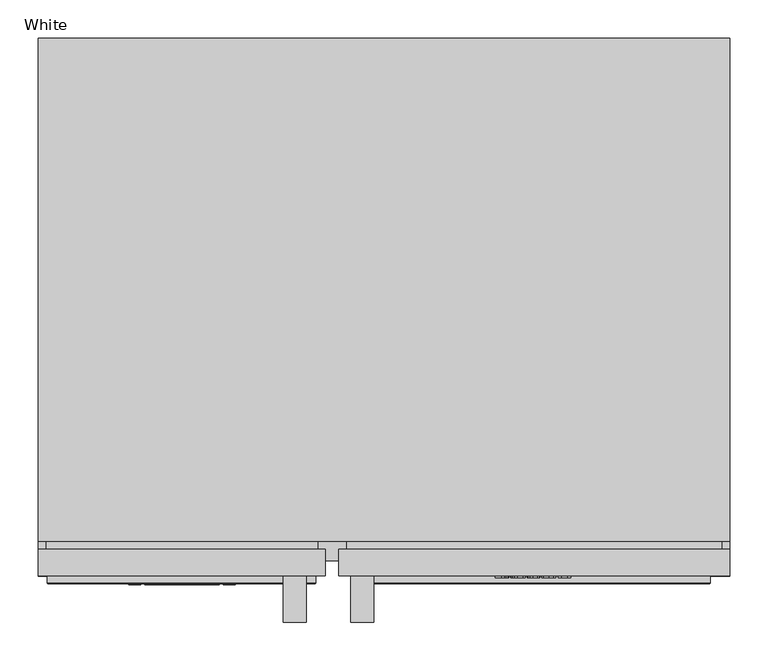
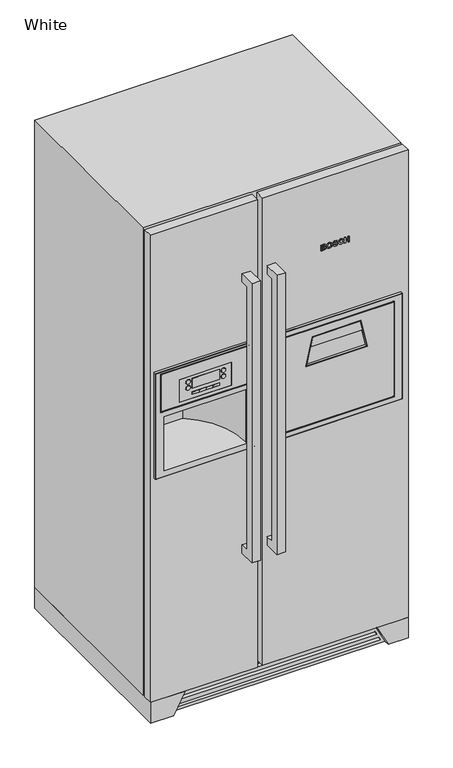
"""IFC4 building model written with IfcOpenShell, lengths in millimetres: proxy geometry, Blocks_Side by Side Refrigerator_F02335EN : White."""

from ifc_helpers import new_model, si_unit, point, frame, frame_2d, origin, place, context, project, spatial, polyline, circle_curve, ellipse_curve, trimmed, segment, composite_curve, outline, extrude, faceted_brep, source, transform, mapped, element, save
from ifc_brep_helpers import plane_surface, cylinder_surface, revolved_surface, advanced_brep


def white_40978c59(model_context):
    return source(origin(), model_context, "Body", "SolidModel", [
        extrude(outline(polyline([(1555.5500322, 145.0144884), (1535.1448442, 145.0144884), (1535.1448442, 151.9882853), (1535.2814861, 156.9782445), (1536.2455705, 159.754099), (1538.3356853, 161.5304435), (1541.0305669, 162.1807577), (1544.0923572, 161.2748726), (1545.9344923, 158.6837376), (1547.7412016, 160.7662611), (1550.3829447, 161.5329739), (1552.7842993, 160.890251), (1554.4999141, 159.2834436), (1555.3475998, 157.0971735), (1555.5500322, 153.3901298), (1555.5500322, 145.0144884)]), holes=[polyline([(1551.9872216, 148.9011909), (1551.9872216, 151.5024475), (1551.9214311, 155.3689067), (1549.7554042, 157.6462714), (1548.2219786, 156.9807749), (1547.5185259, 155.1563527), (1547.4527354, 151.8668258), (1547.4527354, 148.9011909), (1551.9872216, 148.9011909)]), polyline([(1543.8899248, 148.9011909), (1543.8899248, 152.4893055), (1543.6115802, 156.4266161), (1541.2481817, 158.2940552), (1539.6008879, 157.6715755), (1538.8291143, 156.0571769), (1538.7076548, 153.010569), (1538.7076548, 148.9011909), (1543.8899248, 148.9011909)])]), frame((0.0, -702.0, 0.0), z_axis=(0.0, 1.0, 0.0), x_axis=(0.0, 0.0, 1.0)), (0.0, 0.0, 1.0), 2.0),
        extrude(outline(polyline([(1545.220918, 164.7718926), (1537.5917461, 167.4085749), (1534.8209524, 174.5139529), (1537.6043981, 181.5687227), (1545.3221342, 184.205405), (1553.0828871, 181.5484795), (1555.8739241, 174.4633448), (1555.0692552, 170.1414126), (1553.2347114, 167.552808), (1550.4436744, 165.6878994), (1545.220918, 164.7718926)]), holes=[polyline([(1545.3626207, 168.6585951), (1550.5803163, 170.2679329), (1552.3111135, 174.5088921), (1550.6005596, 178.729608), (1545.4182896, 180.3187026), (1540.1423946, 178.6865912), (1538.383763, 174.5088921), (1540.1550466, 170.3109498), (1545.3626207, 168.6585951)])]), frame((0.0, -702.0, 0.0), z_axis=(0.0, 1.0, 0.0), x_axis=(0.0, 0.0, 1.0)), (0.0, 0.0, 1.0), 2.0),
        extrude(outline(polyline([(1541.9465736, 186.4726481), (1536.6403137, 188.9372629), (1534.8209524, 194.8584112), (1535.5598307, 199.2790291), (1537.8169522, 202.0219884), (1541.0761142, 202.9911337), (1544.2998505, 202.1712824), (1546.3570699, 199.9040392), (1547.7943401, 195.4328132), (1551.5874176, 191.685283), (1552.3111135, 194.5901882), (1551.6304345, 197.2850698), (1549.3960866, 198.4566474), (1549.3960866, 202.3433499), (1554.1077012, 200.3114345), (1555.8739241, 194.5446409), (1555.1654106, 190.5415398), (1553.1056608, 188.0010129), (1550.2007555, 187.1204319), (1546.1065598, 189.0384791), (1544.1176613, 193.7855193), (1543.2522627, 197.1560191), (1541.1621479, 199.1044312), (1539.2162663, 198.0619042), (1538.383763, 194.9596274), (1539.3250737, 191.8775938), (1542.2704654, 190.3593506), (1541.9465736, 186.4726481)])), frame((0.0, -702.0, 0.0), z_axis=(0.0, 1.0, 0.0), x_axis=(0.0, 0.0, 1.0)), (0.0, 0.0, 1.0), 2.0),
        extrude(outline(polyline([(1542.9182492, 219.5096192), (1539.7223473, 217.7206227), (1538.7076548, 214.7473965), (1540.2967493, 210.9340758), (1545.6308436, 209.4689711), (1550.734671, 210.9796231), (1552.3111135, 214.9144032), (1551.4431845, 217.897751), (1549.0721948, 219.5096192), (1549.7199785, 223.3963217), (1553.5914986, 221.2960853), (1555.8739241, 215.1826262), (1553.1056608, 208.2265421), (1545.3322558, 205.5822686), (1537.8726211, 208.2037685), (1535.1448442, 214.8992208), (1536.74153, 220.3345313), (1541.6226817, 223.3963217), (1542.9182492, 219.5096192)])), frame((0.0, -702.0, 0.0), z_axis=(0.0, 1.0, 0.0), x_axis=(0.0, 0.0, 1.0)), (0.0, 0.0, 1.0), 2.0),
        extrude(outline(polyline([(1535.1448442, 226.6352404), (1535.1448442, 230.5219429), (1543.8899248, 230.5219429), (1543.8899248, 239.2670234), (1535.1448442, 239.2670234), (1535.1448442, 243.1537259), (1555.5500322, 243.1537259), (1555.5500322, 239.2670234), (1547.4527354, 239.2670234), (1547.4527354, 230.5219429), (1555.5500322, 230.5219429), (1555.5500322, 226.6352404), (1535.1448442, 226.6352404)])), frame((0.0, -702.0, 0.0), z_axis=(0.0, 1.0, 0.0), x_axis=(0.0, 0.0, 1.0)), (0.0, 0.0, 1.0), 2.0),
        extrude(outline(polyline([(-760.0, 516.2540815), (-760.0, 1546.2540815), (-700.0, 1546.2540815), (-700.0, 1516.2540815), (-730.0, 1516.2540815), (-730.0, 546.2540815), (-700.0, 546.2540815), (-700.0, 516.2540815), (-760.0, 516.2540815)])), frame((-130.977521, 0.0, 0.0), z_axis=(1.0, 0.0, 0.0), x_axis=(0.0, 1.0, 0.0)), (0.0, 0.0, 1.0), 30.0),
        extrude(outline(polyline([(-760.0, 516.2540195), (-760.0, 1546.2540195), (-700.0, 1546.2540195), (-700.0, 1516.2540195), (-730.0, 1516.2540195), (-730.0, 546.2540195), (-700.0, 546.2540195), (-700.0, 516.2540195), (-760.0, 516.2540195)])), frame((-43.0333915, 0.0, 0.0), z_axis=(1.0, 0.0, 0.0), x_axis=(0.0, 1.0, 0.0)), (0.0, 0.0, 1.0), 30.0),
        extrude(outline(polyline([(-214.6189367, -711.0), (-311.6189389, -711.0), (-311.6189389, -710.0), (-214.6189367, -710.0), (-214.6189367, -711.0)])), frame((0.0, 0.0, 1193.9279961), z_axis=(0.0, 0.0, 1.0), x_axis=(1.0, 0.0, 0.0)), (0.0, 0.0, 1.0), 35.9999828),
        extrude(outline(composite_curve([segment(trimmed(circle_curve(frame_2d((1222.0626092, -324.676337)), 7.7707444), [point((1222.0626092, -316.9055926))], [point((1222.0626092, -332.4470814))], False, "CARTESIAN"), True, "CONTINUOUS"), segment(trimmed(circle_curve(frame_2d((1222.0626092, -324.676337)), 7.7707444), [point((1222.0626092, -332.4470814))], [point((1222.0626092, -316.9055926))], False, "CARTESIAN"), True, "CONTINUOUS")], self_intersect=False)), frame((0.0, -711.0, 0.0), z_axis=(0.0, 1.0, 0.0), x_axis=(0.0, 0.0, 1.0)), (0.0, 0.0, 1.0), 1.0),
        extrude(outline(composite_curve([segment(trimmed(circle_curve(frame_2d((1199.9645548, -324.676337)), 7.7707444), [point((1199.9645548, -316.9055926))], [point((1199.9645548, -332.4470814))], False, "CARTESIAN"), True, "CONTINUOUS"), segment(trimmed(circle_curve(frame_2d((1199.9645548, -324.676337)), 7.7707444), [point((1199.9645548, -332.4470814))], [point((1199.9645548, -316.9055926))], False, "CARTESIAN"), True, "CONTINUOUS")], self_intersect=False)), frame((0.0, -711.0, 0.0), z_axis=(0.0, 1.0, 0.0), x_axis=(0.0, 0.0, 1.0)), (0.0, 0.0, 1.0), 1.0),
        extrude(outline(composite_curve([segment(trimmed(circle_curve(frame_2d((1199.9645548, -201.5615387)), 7.7707444), [point((1199.9645548, -193.7907943))], [point((1199.9645548, -209.3322831))], False, "CARTESIAN"), True, "CONTINUOUS"), segment(trimmed(circle_curve(frame_2d((1199.9645548, -201.5615387)), 7.7707444), [point((1199.9645548, -209.3322831))], [point((1199.9645548, -193.7907943))], False, "CARTESIAN"), True, "CONTINUOUS")], self_intersect=False)), frame((0.0, -711.0, 0.0), z_axis=(0.0, 1.0, 0.0), x_axis=(0.0, 0.0, 1.0)), (0.0, 0.0, 1.0), 1.0),
        extrude(outline(composite_curve([segment(trimmed(circle_curve(frame_2d((1222.0626092, -201.5615387)), 7.7707444), [point((1222.0626092, -193.7907943))], [point((1222.0626092, -209.3322831))], False, "CARTESIAN"), True, "CONTINUOUS"), segment(trimmed(circle_curve(frame_2d((1222.0626092, -201.5615387)), 7.7707444), [point((1222.0626092, -209.3322831))], [point((1222.0626092, -193.7907943))], False, "CARTESIAN"), True, "CONTINUOUS")], self_intersect=False)), frame((0.0, -711.0, 0.0), z_axis=(0.0, 1.0, 0.0), x_axis=(0.0, 0.0, 1.0)), (0.0, 0.0, 1.0), 1.0),
        extrude(outline(polyline([(-287.3689384, -711.0), (-311.6189389, -711.0), (-311.6189389, -710.0), (-287.3689384, -710.0), (-287.3689384, -711.0)])), frame((0.0, 0.0, 1171.4532196), z_axis=(0.0, 0.0, 1.0), x_axis=(1.0, 0.0, 0.0)), (0.0, 0.0, 1.0), 8.7420874),
        extrude(outline(polyline([(-214.6189367, -711.0), (-238.8689373, -711.0), (-238.8689373, -710.0), (-214.6189367, -710.0), (-214.6189367, -711.0)])), frame((0.0, 0.0, 1171.4532196), z_axis=(0.0, 0.0, 1.0), x_axis=(1.0, 0.0, 0.0)), (0.0, 0.0, 1.0), 8.7420874),
        extrude(outline(polyline([(-263.1189378, -711.0), (-286.8689384, -711.0), (-286.8689384, -710.0), (-263.1189378, -710.0), (-263.1189378, -711.0)])), frame((0.0, 0.0, 1171.4532196), z_axis=(0.0, 0.0, 1.0), x_axis=(1.0, 0.0, 0.0)), (0.0, 0.0, 1.0), 8.7420874),
        extrude(outline(polyline([(-239.3689373, -711.0), (-262.6189378, -711.0), (-262.6189378, -710.0), (-239.3689373, -710.0), (-239.3689373, -711.0)])), frame((0.0, 0.0, 1171.4532196), z_axis=(0.0, 0.0, 1.0), x_axis=(1.0, 0.0, 0.0)), (0.0, 0.0, 1.0), 8.7420874),
        extrude(outline(composite_curve([segment(trimmed(circle_curve(frame_2d((1060.177339, -263.1189378)), 39.3587413), [point((1033.9053164, -292.4257859))], [point((1033.9053164, -233.8120898))], False, "CARTESIAN"), True, "CONTINUOUS"), segment(polyline([(1033.9053164, -233.8120898), (1091.9607462, -233.8120898)]), True, "CONTINUOUS"), segment(trimmed(circle_curve(frame_2d((1065.6887236, -263.1189378)), 39.3587413), [point((1091.9607462, -233.8120898))], [point((1091.9607462, -292.4257859))], False, "CARTESIAN"), True, "CONTINUOUS"), segment(polyline([(1091.9607462, -292.4257859), (1033.9053164, -292.4257859)]), True, "CONTINUOUS")], self_intersect=False), holes=[composite_curve([segment(polyline([(1037.7532645, -282.387925), (1088.1127982, -282.387925)]), True, "CONTINUOUS"), segment(trimmed(circle_curve(frame_2d((1067.9046589, -263.1189378)), 27.9224418), [point((1088.1127982, -282.387925))], [point((1088.1127982, -243.8499507))], True, "CARTESIAN"), True, "CONTINUOUS"), segment(polyline([(1088.1127982, -243.8499507), (1037.7532645, -243.8499507)]), True, "CONTINUOUS"), segment(trimmed(circle_curve(frame_2d((1057.9614037, -263.1189378)), 27.9224418), [point((1037.7532645, -243.8499507))], [point((1037.7532645, -282.387925))], True, "CARTESIAN"), True, "CONTINUOUS")], self_intersect=False)]), frame((0.0, -500.2240544, 0.0), z_axis=(0.0, 1.0, 0.0), x_axis=(0.0, 0.0, 1.0)), (0.0, 0.0, 1.0), 2.0),
        advanced_brep(
        [(-305.932972, -498.2240544, 921.5347506), (-220.932972, -498.2240544, 921.5347506), (-118.6051151, -700.0, 921.5347506), (-408.7429514, -700.0, 921.5347506), (-408.7429514, -700.0, 922.5347506), (-305.932972, -498.2240544, 922.5347506), (-220.932972, -498.2240544, 922.5347506), (-118.6051151, -700.0, 922.5347506), (-108.6048937, -700.0, 1122.5347521), (-217.7356827, -488.2240544, 1122.5347521), (-308.8822096, -488.2240544, 1122.5347521), (-418.7541523, -700.0, 1122.5347521), (-408.7429514, -700.0, 1122.5347521), (-305.932972, -498.2240544, 1122.5347521), (-220.932972, -498.2240544, 1122.5347521), (-118.6051151, -700.0, 1122.5347521), (-418.7541523, -700.0, 922.5347506), (-308.8822096, -488.2240544, 922.5347506), (-217.7356827, -488.2240544, 922.5347506), (-108.6048937, -700.0, 922.5347506), (-305.932972, -498.2240544, 1122.5347521), (-305.932972, -498.2240544, 922.5347506), (-220.932972, -498.2240544, 922.5347506), (-220.932972, -498.2240544, 1122.5347521), (-118.6051151, -700.0, 922.5347506), (-118.6051151, -700.0, 1122.5347521), (-408.7429514, -700.0, 1122.5347521), (-408.7429514, -700.0, 922.5347506), (-305.932972, -498.2240544, 1123.5347521), (-408.7429514, -700.0, 1123.5347521), (-118.6051151, -700.0, 1123.5347521), (-220.932972, -498.2240544, 1123.5347521), (-437.1051162, -710.0, 1289.4023094), (-437.1051162, -710.0, 902.40235), (-90.1051294, -710.0, 902.40235), (-90.1051294, -710.0, 1289.4023094), (-408.7429514, -710.0, 1122.5347521), (-118.6051151, -710.0, 1122.5347521), (-118.6051151, -710.0, 922.5347506), (-408.7429514, -710.0, 922.5347506), (-420.1051146, -710.0, 1141.0347521), (-420.1051146, -710.0, 1282.4023094), (-107.1051151, -710.0, 1282.4023094), (-107.1051151, -710.0, 1141.0347521), (-88.6051294, -700.0, 1290.9023094), (-88.6051294, -700.0, 900.90235), (-438.6051162, -700.0, 900.90235), (-438.6051162, -700.0, 1290.9023094), (-108.6051151, -700.0, 1142.5347521), (-108.6051151, -700.0, 1280.9023094), (-418.6051146, -700.0, 1280.9023094), (-418.6051146, -700.0, 1142.5347521), (-438.6051162, -708.5, 1290.9023094), (-88.6051294, -708.5, 1290.9023094), (-438.6051162, -708.5, 900.90235), (-88.6051294, -708.5, 900.90235), (-418.6051146, -708.5, 1142.5347521), (-108.6051151, -708.5, 1142.5347521), (-418.6051146, -708.5, 1280.9023094), (-108.6051151, -708.5, 1280.9023094)],
        [
            (0, 1),
            (1, 2, circle_curve(frame((-365.4019289, -698.3245167, 921.5347506), z_axis=(0.0, 0.0, -1.0), x_axis=(1.0, 0.0, 0.0)), 246.8025011)),
            (2, 3),
            (3, 0, circle_curve(frame((-180.959306, -688.981441, 921.5347506), z_axis=(0.0, 0.0, -1.0), x_axis=(1.0, 0.0, 0.0)), 228.0499896)),
            (3, 4),
            (4, 5, circle_curve(frame((-180.959306, -688.981441, 922.5347506), z_axis=(0.0, 0.0, -1.0), x_axis=(1.0, 0.0, 0.0)), 228.0499896)),
            (5, 0),
            (1, 6),
            (6, 7, circle_curve(frame((-365.4019289, -698.3245167, 922.5347506), z_axis=(0.0, 0.0, -1.0), x_axis=(1.0, 0.0, 0.0)), 246.8025011)),
            (7, 2),
            (5, 6),
            (8, 9, circle_curve(frame((-365.4019289, -698.3245167, 1122.5347521), z_axis=(0.0, 0.0, 1.0), x_axis=(1.0, 0.0, 0.0)), 256.8025011)),
            (9, 10),
            (10, 11, circle_curve(frame((-180.959306, -688.981441, 1122.5347521), z_axis=(0.0, 0.0, 1.0), x_axis=(1.0, 0.0, 0.0)), 238.0499896)),
            (11, 12),
            (12, 13, circle_curve(frame((-180.959306, -688.981441, 1122.5347521), z_axis=(0.0, 0.0, -1.0), x_axis=(1.0, 0.0, 0.0)), 228.0499896)),
            (13, 14),
            (14, 15, circle_curve(frame((-365.4019289, -698.3245167, 1122.5347521), z_axis=(0.0, 0.0, -1.0), x_axis=(1.0, 0.0, 0.0)), 246.8025011)),
            (15, 8),
            (16, 17, circle_curve(frame((-180.959306, -688.981441, 922.5347506), z_axis=(0.0, 0.0, -1.0), x_axis=(1.0, 0.0, 0.0)), 238.0499896)),
            (17, 18),
            (18, 19, circle_curve(frame((-365.4019289, -698.3245167, 922.5347506), z_axis=(0.0, 0.0, -1.0), x_axis=(1.0, 0.0, 0.0)), 256.8025011)),
            (19, 7),
            (4, 16),
            (20, 21),
            (21, 22),
            (22, 23),
            (23, 20),
            (22, 24, circle_curve(frame((-365.4019289, -698.3245167, 922.5347506), z_axis=(0.0, 0.0, -1.0), x_axis=(1.0, 0.0, 0.0)), 246.8025011)),
            (24, 25),
            (25, 23, circle_curve(frame((-365.4019289, -698.3245167, 1122.5347521), z_axis=(0.0, 0.0, 1.0), x_axis=(1.0, 0.0, 0.0)), 246.8025011)),
            (8, 19),
            (18, 9),
            (17, 10),
            (16, 11),
            (20, 26, circle_curve(frame((-180.959306, -688.981441, 1122.5347521), z_axis=(0.0, 0.0, 1.0), x_axis=(1.0, 0.0, 0.0)), 228.0499896)),
            (26, 27),
            (27, 21, circle_curve(frame((-180.959306, -688.981441, 922.5347506), z_axis=(0.0, 0.0, -1.0), x_axis=(1.0, 0.0, 0.0)), 228.0499896)),
            (28, 29, circle_curve(frame((-180.959306, -688.981441, 1123.5347521), z_axis=(0.0, 0.0, 1.0), x_axis=(1.0, 0.0, 0.0)), 228.0499896)),
            (29, 30),
            (30, 31, circle_curve(frame((-365.4019289, -698.3245167, 1123.5347521), z_axis=(0.0, 0.0, 1.0), x_axis=(1.0, 0.0, 0.0)), 246.8025011)),
            (31, 28),
            (28, 13),
            (12, 29),
            (30, 15),
            (14, 31),
            (32, 33),
            (33, 34),
            (34, 35),
            (35, 32),
            (36, 37),
            (37, 38),
            (38, 39),
            (39, 36),
            (40, 41),
            (41, 42),
            (42, 43),
            (43, 40),
            (44, 45),
            (45, 46),
            (46, 47),
            (47, 44),
            (48, 49),
            (49, 50),
            (50, 51),
            (51, 48),
            (47, 52),
            (52, 53),
            (53, 44),
            (46, 54),
            (54, 52),
            (45, 55),
            (55, 54),
            (53, 55),
            (36, 26),
            (25, 37),
            (24, 38),
            (27, 39),
            (51, 56),
            (56, 57),
            (57, 48),
            (50, 58),
            (58, 56),
            (49, 59),
            (59, 58),
            (57, 59),
            (54, 33, ellipse_curve(frame((-437.1051162, -708.5, 902.40235), z_axis=(-0.7071067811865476, 0.0, 0.7071067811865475), x_axis=(-0.7071067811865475, 0.0, -0.7071067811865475)), 2.1213203, 1.5)),
            (32, 52, ellipse_curve(frame((-437.1051162, -708.5, 1289.4023094), z_axis=(-0.7071067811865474, 0.0, -0.7071067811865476), x_axis=(0.7071067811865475, 0.0, -0.7071067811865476)), 2.1213203, 1.5)),
            (55, 34, ellipse_curve(frame((-90.1051294, -708.5, 902.40235), z_axis=(-0.7071067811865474, 0.0, -0.7071067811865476), x_axis=(0.7071067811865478, 0.0, -0.7071067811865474)), 2.1213203, 1.5)),
            (53, 35, ellipse_curve(frame((-90.1051294, -708.5, 1289.4023094), z_axis=(0.7071067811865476, 0.0, -0.7071067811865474), x_axis=(0.7071067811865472, 0.0, 0.7071067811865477)), 2.1213203, 1.5)),
            (40, 56, ellipse_curve(frame((-420.1051146, -708.5, 1141.0347521), z_axis=(-0.7071067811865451, 0.0, 0.70710678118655), x_axis=(-0.70710678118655, 0.0, -0.7071067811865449)), 2.1213203, 1.5)),
            (58, 41, ellipse_curve(frame((-420.1051146, -708.5, 1282.4023094), z_axis=(-0.7071067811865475, 0.0, -0.7071067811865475), x_axis=(0.7071067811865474, 0.0, -0.7071067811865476)), 2.1213203, 1.5)),
            (43, 57, ellipse_curve(frame((-107.1051151, -708.5, 1141.0347521), z_axis=(-0.7071067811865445, 0.0, -0.7071067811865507), x_axis=(0.7071067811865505, 0.0, -0.7071067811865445)), 2.1213203, 1.5)),
            (42, 59, ellipse_curve(frame((-107.1051151, -708.5, 1282.4023094), z_axis=(0.707106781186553, 0.0, -0.7071067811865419), x_axis=(0.7071067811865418, 0.0, 0.7071067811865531)), 2.1213203, 1.5)),
        ],
        [
            plane_surface(frame((47.0906836, -688.981441, 921.5347506), z_axis=(0.0, 0.0, -1.0), x_axis=(0.0, -1.0, 0.0))),
            cylinder_surface(frame((-180.959306, -688.981441, 921.5347506), z_axis=(0.0, 0.0, 1.0), x_axis=(1.0, 0.0, 0.0)), 228.0499896),
            cylinder_surface(frame((-365.4019289, -698.3245167, 921.5347506), z_axis=(0.0, 0.0, 1.0), x_axis=(1.0, 0.0, 0.0)), 246.8025011),
            plane_surface(frame((-220.932972, -498.2240544, 922.5347506), z_axis=(0.0, 1.0, 0.0), x_axis=(0.0, 0.0, -1.0))),
            plane_surface(frame((-305.932972, -498.2240544, 1122.5347521), z_axis=(0.0, 0.0, 1.0), x_axis=(1.0, 0.0, 0.0))),
            plane_surface(frame((-305.932972, -498.2240544, 922.5347506), z_axis=(0.0, 0.0, -1.0), x_axis=(-1.0, 0.0, 0.0))),
            plane_surface(frame((-305.932972, -498.2240544, 1122.5347521), z_axis=(0.0, -1.0, 0.0), x_axis=(0.0, 0.0, -1.0))),
            revolved_surface(polyline([(-118.59942779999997, -698.3245167, 922.5347506), (-118.59942779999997, -698.3245167, 1122.5347521)]), (-365.4019289, -698.3245167, 922.5347506), (0.0, 0.0, -1.0)),
            cylinder_surface(frame((-365.4019289, -698.3245167, 922.5347506), z_axis=(0.0, 0.0, 1.0), x_axis=(1.0, 0.0, 0.0)), 256.8025011),
            plane_surface(frame((-217.7356827, -488.2240544, 1122.5347521), z_axis=(0.0, 1.0, 0.0), x_axis=(0.0, 0.0, -1.0))),
            cylinder_surface(frame((-180.959306, -688.981441, 922.5347506), z_axis=(0.0, 0.0, 1.0), x_axis=(1.0, 0.0, 0.0)), 238.0499896),
            revolved_surface(polyline([(47.090683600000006, -688.981441, 922.5347506), (47.090683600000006, -688.981441, 1122.5347521)]), (-180.959306, -688.981441, 922.5347506), (0.0, 0.0, -1.0)),
            plane_surface(frame((47.0906836, -688.981441, 1123.5347521), z_axis=(0.0, 0.0, 1.0), x_axis=(0.0, 1.0, 0.0))),
            cylinder_surface(frame((-180.959306, -688.981441, 1122.5347521), z_axis=(0.0, 0.0, 1.0), x_axis=(1.0, 0.0, 0.0)), 228.0499896),
            cylinder_surface(frame((-365.4019289, -698.3245167, 1122.5347521), z_axis=(0.0, 0.0, 1.0), x_axis=(1.0, 0.0, 0.0)), 246.8025011),
            plane_surface(frame((-220.932972, -498.2240544, 1123.5347521), z_axis=(0.0, 1.0, 0.0), x_axis=(0.0, 0.0, -1.0))),
            plane_surface(frame((-438.6051162, -710.0, 1290.9023094), z_axis=(0.0, -1.0, 0.0), x_axis=(-1.0, 0.0, 0.0))),
            plane_surface(frame((-438.6051162, -700.0, 1290.9023094), z_axis=(0.0, 1.0, 0.0), x_axis=(1.0, 0.0, 0.0))),
            plane_surface(frame((-88.6051294, -710.0, 1290.9023094), z_axis=(0.0, 0.0, 1.0), x_axis=(0.0, 1.0, 0.0))),
            plane_surface(frame((-438.6051162, -710.0, 1290.9023094), z_axis=(-1.0, 0.0, 0.0), x_axis=(0.0, 1.0, 0.0))),
            plane_surface(frame((-438.6051162, -710.0, 900.90235), z_axis=(0.0, 0.0, -1.0), x_axis=(0.0, 1.0, 0.0))),
            plane_surface(frame((-88.6051294, -710.0, 900.90235), z_axis=(1.0, 0.0, 0.0), x_axis=(0.0, 1.0, 0.0))),
            plane_surface(frame((-408.7429514, -710.0, 1122.5347521), z_axis=(0.0, 0.0, -1.0), x_axis=(0.0, 1.0, 0.0))),
            plane_surface(frame((-118.6051151, -710.0, 1122.5347521), z_axis=(-1.0, 0.0, 0.0), x_axis=(0.0, 1.0, 0.0))),
            plane_surface(frame((-118.6051151, -710.0, 922.5347506), z_axis=(0.0, 0.0, 1.0), x_axis=(0.0, 1.0, 0.0))),
            plane_surface(frame((-408.7429514, -710.0, 922.5347506), z_axis=(1.0, 0.0, 0.0), x_axis=(0.0, 1.0, 0.0))),
            plane_surface(frame((-108.6051151, -710.0, 1142.5347521), z_axis=(0.0, 0.0, 1.0), x_axis=(0.0, 1.0, 0.0))),
            plane_surface(frame((-418.6051146, -710.0, 1142.5347521), z_axis=(1.0, 0.0, 0.0), x_axis=(0.0, 1.0, 0.0))),
            plane_surface(frame((-418.6051146, -710.0, 1280.9023094), z_axis=(0.0, 0.0, -1.0), x_axis=(0.0, 1.0, 0.0))),
            plane_surface(frame((-108.6051151, -710.0, 1280.9023094), z_axis=(-1.0, 0.0, 0.0), x_axis=(0.0, 1.0, 0.0))),
            cylinder_surface(frame((-437.1051162, -708.5, 1290.9023094), z_axis=(0.0, 0.0, -1.0), x_axis=(0.0, -1.0, 0.0)), 1.5),
            cylinder_surface(frame((-438.6051162, -708.5, 902.40235), z_axis=(1.0, 0.0, 0.0), x_axis=(0.0, -1.0, 0.0)), 1.5),
            cylinder_surface(frame((-90.1051294, -708.5, 900.90235), z_axis=(0.0, 0.0, 1.0), x_axis=(0.0, -1.0, 0.0)), 1.5),
            cylinder_surface(frame((-88.6051294, -708.5, 1289.4023094), z_axis=(-1.0, 0.0, 0.0), x_axis=(0.0, -1.0, 0.0)), 1.5),
            cylinder_surface(frame((-420.1051146, -708.5, 1280.9023094), z_axis=(0.0, 0.0, -1.0), x_axis=(0.0, -1.0, 0.0)), 1.5),
            cylinder_surface(frame((-418.6051146, -708.5, 1141.0347521), z_axis=(1.0, 0.0, 0.0), x_axis=(0.0, -1.0, 0.0)), 1.5),
            cylinder_surface(frame((-107.1051151, -708.5, 1142.5347521), z_axis=(0.0, 0.0, 1.0), x_axis=(0.0, -1.0, 0.0)), 1.5),
            cylinder_surface(frame((-108.6051151, -708.5, 1282.4023094), z_axis=(-1.0, 0.0, 0.0), x_axis=(0.0, -1.0, 0.0)), 1.5),
        ],
        [
            (0, [[1, 2, 3, 4]]),
            (1, [[-4, 5, 6, 7]]),
            (2, [[-2, 8, 9, 10]]),
            (3, [[-1, -7, 11, -8]]),
            (4, [[12, 13, 14, 15, 16, 17, 18, 19]]),
            (5, [[20, 21, 22, 23, -9, -11, -6, 24]]),
            (6, [[25, 26, 27, 28]]),
            (7, [[-27, 29, 30, 31]]),
            (8, [[-12, 32, -22, 33]]),
            (9, [[-13, -33, -21, 34]]),
            (10, [[-14, -34, -20, 35]]),
            (11, [[-25, 36, 37, 38]]),
            (12, [[39, 40, 41, 42]]),
            (13, [[-39, 43, -16, 44]]),
            (14, [[-41, 45, -18, 46]]),
            (15, [[-42, -46, -17, -43]]),
            (16, [[47, 48, 49, 50], [51, 52, 53, 54], [55, 56, 57, 58]]),
            (17, [[59, 60, 61, 62], [-3, -10, -23, -32, -19, -45, -40, -44, -15, -35, -24, -5], [63, 64, 65, 66]]),
            (18, [[-62, 67, 68, 69]]),
            (19, [[-61, 70, 71, -67]]),
            (20, [[-60, 72, 73, -70]]),
            (21, [[-59, -69, 74, -72]]),
            (22, [[-51, 75, -36, -28, -31, 76]]),
            (23, [[-52, -76, -30, 77]]),
            (24, [[-53, -77, -29, -26, -38, 78]]),
            (25, [[-54, -78, -37, -75]]),
            (26, [[-66, 79, 80, 81]]),
            (27, [[-65, 82, 83, -79]]),
            (28, [[-64, 84, 85, -82]]),
            (29, [[-63, -81, 86, -84]]),
            (30, [[87, -47, 88, -71]]),
            (31, [[-87, -73, 89, -48]]),
            (32, [[-89, -74, 90, -49]]),
            (33, [[-88, -50, -90, -68]]),
            (34, [[91, -83, 92, -55]]),
            (35, [[-91, -58, 93, -80]]),
            (36, [[-93, -57, 94, -86]]),
            (37, [[-92, -85, -94, -56]]),
        ],
    ),
        advanced_brep(
        [(-417.1051146, -710.0, 1279.4023094), (-417.1051146, -710.0, 1144.0347521), (-110.1051151, -710.0, 1144.0347521), (-110.1051151, -710.0, 1279.4023094), (-354.0505241, -710.0, 1156.2316051), (-354.0505241, -710.0, 1240.2315651), (-173.0505256, -710.0, 1240.2315651), (-173.0505256, -710.0, 1156.2316051), (-418.6051146, -700.0, 1280.9023094), (-108.6051151, -700.0, 1280.9023094), (-108.6051151, -700.0, 1142.5347521), (-418.6051146, -700.0, 1142.5347521), (-354.0505241, -700.0, 1156.2316051), (-173.0505256, -700.0, 1156.2316051), (-173.0505256, -700.0, 1240.2315651), (-354.0505241, -700.0, 1240.2315651), (-418.6051146, -708.5, 1142.5347521), (-418.6051146, -708.5, 1280.9023094), (-108.6051151, -708.5, 1142.5347521), (-108.6051151, -708.5, 1280.9023094)],
        [
            (0, 1),
            (1, 2),
            (2, 3),
            (3, 0),
            (4, 5),
            (5, 6),
            (6, 7),
            (7, 4),
            (8, 9),
            (9, 10),
            (10, 11),
            (11, 8),
            (12, 13),
            (13, 14),
            (14, 15),
            (15, 12),
            (11, 16),
            (16, 17),
            (17, 8),
            (10, 18),
            (18, 16),
            (9, 19),
            (19, 18),
            (17, 19),
            (4, 12),
            (15, 5),
            (14, 6),
            (13, 7),
            (16, 1, ellipse_curve(frame((-417.1051146, -708.5, 1144.0347521), z_axis=(-0.7071067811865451, 0.0, 0.70710678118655), x_axis=(-0.70710678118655, 0.0, -0.7071067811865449)), 2.1213203, 1.5)),
            (0, 17, ellipse_curve(frame((-417.1051146, -708.5, 1279.4023094), z_axis=(-0.7071067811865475, 0.0, -0.7071067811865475), x_axis=(0.7071067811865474, 0.0, -0.7071067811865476)), 2.1213203, 1.5)),
            (18, 2, ellipse_curve(frame((-110.1051151, -708.5, 1144.0347521), z_axis=(-0.7071067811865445, 0.0, -0.7071067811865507), x_axis=(0.7071067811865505, 0.0, -0.7071067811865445)), 2.1213203, 1.5)),
            (19, 3, ellipse_curve(frame((-110.1051151, -708.5, 1279.4023094), z_axis=(0.707106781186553, 0.0, -0.7071067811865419), x_axis=(0.7071067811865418, 0.0, 0.7071067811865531)), 2.1213203, 1.5)),
        ],
        [
            plane_surface(frame((-418.6051146, -710.0, 1142.5347521), z_axis=(0.0, -1.0, 0.0), x_axis=(0.0, 0.0, -1.0))),
            plane_surface(frame((-418.6051146, -700.0, 1142.5347521), z_axis=(0.0, 1.0, 0.0), x_axis=(0.0, 0.0, 1.0))),
            plane_surface(frame((-418.6051146, -710.0, 1280.9023094), z_axis=(-1.0, 0.0, 0.0), x_axis=(0.0, 1.0, 0.0))),
            plane_surface(frame((-418.6051146, -710.0, 1142.5347521), z_axis=(0.0, 0.0, -1.0), x_axis=(0.0, 1.0, 0.0))),
            plane_surface(frame((-108.6051151, -710.0, 1142.5347521), z_axis=(1.0, 0.0, 0.0), x_axis=(0.0, 1.0, 0.0))),
            plane_surface(frame((-108.6051151, -710.0, 1280.9023094), z_axis=(0.0, 0.0, 1.0), x_axis=(0.0, 1.0, 0.0))),
            plane_surface(frame((-354.0505241, -710.0, 1156.2316051), z_axis=(1.0, 0.0, 0.0), x_axis=(0.0, 1.0, 0.0))),
            plane_surface(frame((-354.0505241, -710.0, 1240.2315651), z_axis=(0.0, 0.0, -1.0), x_axis=(0.0, 1.0, 0.0))),
            plane_surface(frame((-173.0505256, -710.0, 1240.2315651), z_axis=(-1.0, 0.0, 0.0), x_axis=(0.0, 1.0, 0.0))),
            plane_surface(frame((-173.0505256, -710.0, 1156.2316051), z_axis=(0.0, 0.0, 1.0), x_axis=(0.0, 1.0, 0.0))),
            cylinder_surface(frame((-417.1051146, -708.5, 1280.9023094), z_axis=(0.0, 0.0, -1.0), x_axis=(0.0, -1.0, 0.0)), 1.5),
            cylinder_surface(frame((-418.6051146, -708.5, 1144.0347521), z_axis=(1.0, 0.0, 0.0), x_axis=(0.0, -1.0, 0.0)), 1.5),
            cylinder_surface(frame((-110.1051151, -708.5, 1142.5347521), z_axis=(0.0, 0.0, 1.0), x_axis=(0.0, -1.0, 0.0)), 1.5),
            cylinder_surface(frame((-108.6051151, -708.5, 1279.4023094), z_axis=(-1.0, 0.0, 0.0), x_axis=(0.0, -1.0, 0.0)), 1.5),
        ],
        [
            (0, [[1, 2, 3, 4], [5, 6, 7, 8]]),
            (1, [[9, 10, 11, 12], [13, 14, 15, 16]]),
            (2, [[-12, 17, 18, 19]]),
            (3, [[-11, 20, 21, -17]]),
            (4, [[-10, 22, 23, -20]]),
            (5, [[-9, -19, 24, -22]]),
            (6, [[-5, 25, -16, 26]]),
            (7, [[-6, -26, -15, 27]]),
            (8, [[-7, -27, -14, 28]]),
            (9, [[-8, -28, -13, -25]]),
            (10, [[29, -1, 30, -18]]),
            (11, [[-29, -21, 31, -2]]),
            (12, [[-31, -23, 32, -3]]),
            (13, [[-30, -4, -32, -24]]),
        ],
    ),
        advanced_brep(
        [(-23.7368317, -710.0, 1284.1353085), (-23.7368317, -710.0, 897.1353085), (423.2631775, -710.0, 897.1353085), (423.2631775, -710.0, 1284.1353085), (396.2631861, -710.0, 1267.1353085), (396.2631861, -710.0, 914.1353085), (3.2631904, -710.0, 914.1353085), (3.2631904, -710.0, 1267.1353085), (-25.2368317, -700.0, 895.6353085), (-25.2368317, -700.0, 1285.6353085), (424.7631775, -700.0, 1285.6353085), (424.7631775, -700.0, 895.6353085), (4.7631904, -700.0, 1265.6353085), (4.7631904, -700.0, 915.6353085), (394.7631861, -700.0, 915.6353085), (394.7631861, -700.0, 1265.6353085), (424.7631775, -708.5, 895.6353085), (-25.2368317, -708.5, 895.6353085), (424.7631775, -708.5, 1285.6353085), (-25.2368317, -708.5, 1285.6353085), (394.7631861, -708.5, 1265.6353085), (4.7631904, -708.5, 1265.6353085), (394.7631861, -708.5, 915.6353085), (4.7631904, -708.5, 915.6353085)],
        [
            (0, 1),
            (1, 2),
            (2, 3),
            (3, 0),
            (4, 5),
            (5, 6),
            (6, 7),
            (7, 4),
            (8, 9),
            (9, 10),
            (10, 11),
            (11, 8),
            (12, 13),
            (13, 14),
            (14, 15),
            (15, 12),
            (11, 16),
            (16, 17),
            (17, 8),
            (10, 18),
            (18, 16),
            (9, 19),
            (19, 18),
            (17, 19),
            (15, 20),
            (20, 21),
            (21, 12),
            (14, 22),
            (22, 20),
            (13, 23),
            (23, 22),
            (21, 23),
            (22, 5, ellipse_curve(frame((396.2631861, -708.5, 914.1353085), z_axis=(0.7071067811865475, 0.0, 0.7071067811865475), x_axis=(0.7071067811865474, 0.0, -0.7071067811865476)), 2.1213203, 1.5)),
            (4, 20, ellipse_curve(frame((396.2631861, -708.5, 1267.1353085), z_axis=(0.7071067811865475, 0.0, -0.7071067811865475), x_axis=(-0.7071067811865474, 0.0, -0.7071067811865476)), 2.1213203, 1.5)),
            (23, 6, ellipse_curve(frame((3.2631904, -708.5, 914.1353085), z_axis=(0.7071067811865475, 0.0, -0.7071067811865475), x_axis=(-0.7071067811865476, 0.0, -0.7071067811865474)), 2.1213203, 1.5)),
            (21, 7, ellipse_curve(frame((3.2631904, -708.5, 1267.1353085), z_axis=(-0.7071067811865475, 0.0, -0.7071067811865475), x_axis=(-0.7071067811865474, 0.0, 0.7071067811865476)), 2.1213203, 1.5)),
            (17, 1, ellipse_curve(frame((-23.7368317, -708.5, 897.1353085), z_axis=(-0.7071067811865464, 0.0, 0.7071067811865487), x_axis=(-0.7071067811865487, 0.0, -0.7071067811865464)), 2.1213203, 1.5)),
            (0, 19, ellipse_curve(frame((-23.7368317, -708.5, 1284.1353085), z_axis=(-0.7071067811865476, 0.0, -0.7071067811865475), x_axis=(0.7071067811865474, 0.0, -0.7071067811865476)), 2.1213203, 1.5)),
            (16, 2, ellipse_curve(frame((423.2631775, -708.5, 897.1353085), z_axis=(-0.7071067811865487, 0.0, -0.7071067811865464), x_axis=(0.7071067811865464, 0.0, -0.7071067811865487)), 2.1213203, 1.5)),
            (18, 3, ellipse_curve(frame((423.2631775, -708.5, 1284.1353085), z_axis=(0.7071067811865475, 0.0, -0.7071067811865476), x_axis=(0.7071067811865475, 0.0, 0.7071067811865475)), 2.1213203, 1.5)),
        ],
        [
            plane_surface(frame((-25.2368317, -710.0, 895.6353085), z_axis=(0.0, -1.0, 0.0), x_axis=(1.0, 0.0, 0.0))),
            plane_surface(frame((-25.2368317, -700.0, 895.6353085), z_axis=(0.0, 1.0, 0.0), x_axis=(-1.0, 0.0, 0.0))),
            plane_surface(frame((-25.2368317, -710.0, 895.6353085), z_axis=(0.0, 0.0, -1.0), x_axis=(0.0, 1.0, 0.0))),
            plane_surface(frame((424.7631775, -710.0, 895.6353085), z_axis=(1.0, 0.0, 0.0), x_axis=(0.0, 1.0, 0.0))),
            plane_surface(frame((424.7631775, -710.0, 1285.6353085), z_axis=(0.0, 0.0, 1.0), x_axis=(0.0, 1.0, 0.0))),
            plane_surface(frame((-25.2368317, -710.0, 1285.6353085), z_axis=(-1.0, 0.0, 0.0), x_axis=(0.0, 1.0, 0.0))),
            plane_surface(frame((4.7631904, -710.0, 1265.6353085), z_axis=(0.0, 0.0, -1.0), x_axis=(0.0, 1.0, 0.0))),
            plane_surface(frame((394.7631861, -710.0, 1265.6353085), z_axis=(-1.0, 0.0, 0.0), x_axis=(0.0, 1.0, 0.0))),
            plane_surface(frame((394.7631861, -710.0, 915.6353085), z_axis=(0.0, 0.0, 1.0), x_axis=(0.0, 1.0, 0.0))),
            plane_surface(frame((4.7631904, -710.0, 915.6353085), z_axis=(1.0, 0.0, 0.0), x_axis=(0.0, 1.0, 0.0))),
            cylinder_surface(frame((396.2631861, -708.5, 1265.6353085), z_axis=(0.0, 0.0, -1.0), x_axis=(0.0, -1.0, 0.0)), 1.5),
            cylinder_surface(frame((394.7631861, -708.5, 914.1353085), z_axis=(-1.0, 0.0, 0.0), x_axis=(0.0, -1.0, 0.0)), 1.5),
            cylinder_surface(frame((3.2631904, -708.5, 915.6353085), z_axis=(0.0, 0.0, 1.0), x_axis=(0.0, -1.0, 0.0)), 1.5),
            cylinder_surface(frame((4.7631904, -708.5, 1267.1353085), z_axis=(1.0, 0.0, 0.0), x_axis=(0.0, -1.0, 0.0)), 1.5),
            cylinder_surface(frame((-23.7368317, -708.5, 1285.6353085), z_axis=(0.0, 0.0, -1.0), x_axis=(0.0, -1.0, 0.0)), 1.5),
            cylinder_surface(frame((-25.2368317, -708.5, 897.1353085), z_axis=(1.0, 0.0, 0.0), x_axis=(0.0, -1.0, 0.0)), 1.5),
            cylinder_surface(frame((423.2631775, -708.5, 895.6353085), z_axis=(0.0, 0.0, 1.0), x_axis=(0.0, -1.0, 0.0)), 1.5),
            cylinder_surface(frame((424.7631775, -708.5, 1284.1353085), z_axis=(-1.0, 0.0, 0.0), x_axis=(0.0, -1.0, 0.0)), 1.5),
        ],
        [
            (0, [[1, 2, 3, 4], [5, 6, 7, 8]]),
            (1, [[9, 10, 11, 12], [13, 14, 15, 16]]),
            (2, [[-12, 17, 18, 19]]),
            (3, [[-11, 20, 21, -17]]),
            (4, [[-10, 22, 23, -20]]),
            (5, [[-9, -19, 24, -22]]),
            (6, [[-16, 25, 26, 27]]),
            (7, [[-15, 28, 29, -25]]),
            (8, [[-14, 30, 31, -28]]),
            (9, [[-13, -27, 32, -30]]),
            (10, [[33, -5, 34, -29]]),
            (11, [[-33, -31, 35, -6]]),
            (12, [[-35, -32, 36, -7]]),
            (13, [[-34, -8, -36, -26]]),
            (14, [[37, -1, 38, -24]]),
            (15, [[-37, -18, 39, -2]]),
            (16, [[-39, -21, 40, -3]]),
            (17, [[-38, -4, -40, -23]]),
        ],
    ),
        advanced_brep(
        [(393.2631861, -710.0, 917.1353085), (393.2631861, -710.0, 1264.1353085), (6.2631904, -710.0, 1264.1353085), (6.2631904, -710.0, 917.1353085), (87.1383392, -710.0, 1133.3326206), (109.290194, -710.0, 1237.061356), (279.7174089, -710.0, 1237.061356), (301.846272, -710.0, 1133.3326206), (4.7631904, -700.0, 1265.6353085), (394.7631861, -700.0, 1265.6353085), (394.7631861, -700.0, 915.6353085), (4.7631904, -700.0, 915.6353085), (110.5036838, -700.0, 1235.561356), (88.9924958, -700.0, 1134.8326206), (299.9925173, -700.0, 1134.8326206), (278.503656, -700.0, 1235.561356), (4.7631904, -708.5, 915.6353085), (4.7631904, -708.5, 1265.6353085), (394.7631861, -708.5, 915.6353085), (394.7631861, -708.5, 1265.6353085), (278.503656, -708.5, 1235.561356), (110.5036838, -708.5, 1235.561356), (299.9925173, -708.5, 1134.8326206), (88.9924958, -708.5, 1134.8326206)],
        [
            (0, 1),
            (1, 2),
            (2, 3),
            (3, 0),
            (4, 5),
            (5, 6),
            (6, 7),
            (7, 4),
            (8, 9),
            (9, 10),
            (10, 11),
            (11, 8),
            (12, 13),
            (13, 14),
            (14, 15),
            (15, 12),
            (11, 16),
            (16, 17),
            (17, 8),
            (10, 18),
            (18, 16),
            (9, 19),
            (19, 18),
            (17, 19),
            (15, 20),
            (20, 21),
            (21, 12),
            (14, 22),
            (22, 20),
            (13, 23),
            (23, 22),
            (21, 23),
            (21, 5, ellipse_curve(frame((109.290194, -708.5, 1237.061356), z_axis=(-0.7774465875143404, 0.0, -0.6289489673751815), x_axis=(-0.6289489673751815, 0.0, 0.7774465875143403)), 1.929393, 1.5)),
            (4, 23, ellipse_curve(frame((87.1383392, -708.5, 1133.3326206), z_axis=(-0.6289489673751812, 0.0, 0.7774465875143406), x_axis=(0.7774465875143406, 0.0, 0.6289489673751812)), 2.3849312, 1.5)),
            (20, 6, ellipse_curve(frame((279.7174089, -708.5, 1237.061356), z_axis=(-0.7773799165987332, 0.0, 0.6290313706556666), x_axis=(0.6290313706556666, 0.0, 0.7773799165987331)), 1.9295585, 1.5)),
            (22, 7, ellipse_curve(frame((301.846272, -708.5, 1133.3326206), z_axis=(0.6290313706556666, 0.0, 0.7773799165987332), x_axis=(0.7773799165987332, 0.0, -0.6290313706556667)), 2.3846187, 1.5)),
            (0, 18, ellipse_curve(frame((393.2631861, -708.5, 917.1353085), z_axis=(0.7071067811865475, 0.0, 0.7071067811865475), x_axis=(0.7071067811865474, 0.0, -0.7071067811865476)), 2.1213203, 1.5)),
            (19, 1, ellipse_curve(frame((393.2631861, -708.5, 1264.1353085), z_axis=(0.7071067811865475, 0.0, -0.7071067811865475), x_axis=(-0.7071067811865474, 0.0, -0.7071067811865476)), 2.1213203, 1.5)),
            (3, 16, ellipse_curve(frame((6.2631904, -708.5, 917.1353085), z_axis=(0.7071067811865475, 0.0, -0.7071067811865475), x_axis=(-0.7071067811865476, 0.0, -0.7071067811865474)), 2.1213203, 1.5)),
            (2, 17, ellipse_curve(frame((6.2631904, -708.5, 1264.1353085), z_axis=(-0.7071067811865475, 0.0, -0.7071067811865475), x_axis=(-0.7071067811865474, 0.0, 0.7071067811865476)), 2.1213203, 1.5)),
        ],
        [
            plane_surface(frame((4.7631904, -710.0, 915.635317), z_axis=(0.0, -1.0, 0.0), x_axis=(0.0, 0.0, -1.0))),
            plane_surface(frame((4.7631904, -700.0, 915.635317), z_axis=(0.0, 1.0, 0.0), x_axis=(0.0, 0.0, 1.0))),
            plane_surface(frame((4.7631904, -710.0, 1265.6353085), z_axis=(-1.0, 0.0, 0.0), x_axis=(0.0, 1.0, 0.0))),
            plane_surface(frame((4.7631904, -710.0, 915.6353085), z_axis=(0.0, 0.0, -1.0), x_axis=(0.0, 1.0, 0.0))),
            plane_surface(frame((394.7631861, -710.0, 915.6353085), z_axis=(1.0, 0.0, 0.0), x_axis=(0.0, 1.0, 0.0))),
            plane_surface(frame((394.7631861, -710.0, 1265.6353085), z_axis=(0.0, 0.0, 1.0), x_axis=(0.0, 1.0, 0.0))),
            plane_surface(frame((110.5036838, -710.0, 1235.561356), z_axis=(0.0, 0.0, -1.0), x_axis=(0.0, 1.0, 0.0))),
            plane_surface(frame((278.503656, -710.0, 1235.561356), z_axis=(-0.9779927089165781, 0.0, -0.20863906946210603), x_axis=(0.0, 1.0, 0.0))),
            plane_surface(frame((299.9925173, -710.0, 1134.8326206), z_axis=(0.0, 0.0, 1.0), x_axis=(0.0, 1.0, 0.0))),
            plane_surface(frame((88.9924958, -710.0, 1134.8326206), z_axis=(0.9779484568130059, 0.0, -0.2088463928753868), x_axis=(0.0, 1.0, 0.0))),
            cylinder_surface(frame((87.5255731, -708.5, 1135.1458902), z_axis=(0.20884639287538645, 0.0, 0.9779484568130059), x_axis=(0.0, -1.0, 0.0)), 1.5),
            cylinder_surface(frame((110.5036838, -708.5, 1237.061356), z_axis=(1.0, 0.0, 0.0), x_axis=(0.0, -1.0, 0.0)), 1.5),
            cylinder_surface(frame((279.9706451, -708.5, 1235.8743146), z_axis=(0.2086390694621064, 0.0, -0.977992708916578), x_axis=(0.0, -1.0, 0.0)), 1.5),
            cylinder_surface(frame((299.9925173, -708.5, 1133.3326206), z_axis=(-1.0, 0.0, 0.0), x_axis=(0.0, -1.0, 0.0)), 1.5),
            cylinder_surface(frame((393.2631861, -708.5, 1265.6353085), z_axis=(0.0, 0.0, -1.0), x_axis=(0.0, -1.0, 0.0)), 1.5),
            cylinder_surface(frame((394.7631861, -708.5, 917.1353085), z_axis=(-1.0, 0.0, 0.0), x_axis=(0.0, -1.0, 0.0)), 1.5),
            cylinder_surface(frame((6.2631904, -708.5, 915.6353085), z_axis=(0.0, 0.0, 1.0), x_axis=(0.0, -1.0, 0.0)), 1.5),
            cylinder_surface(frame((4.7631904, -708.5, 1264.1353085), z_axis=(1.0, 0.0, 0.0), x_axis=(0.0, -1.0, 0.0)), 1.5),
        ],
        [
            (0, [[1, 2, 3, 4], [5, 6, 7, 8]]),
            (1, [[9, 10, 11, 12], [13, 14, 15, 16]]),
            (2, [[-12, 17, 18, 19]]),
            (3, [[-11, 20, 21, -17]]),
            (4, [[-10, 22, 23, -20]]),
            (5, [[-9, -19, 24, -22]]),
            (6, [[-16, 25, 26, 27]]),
            (7, [[-15, 28, 29, -25]]),
            (8, [[-14, 30, 31, -28]]),
            (9, [[-13, -27, 32, -30]]),
            (10, [[33, -5, 34, -32]]),
            (11, [[-33, -26, 35, -6]]),
            (12, [[-35, -29, 36, -7]]),
            (13, [[-34, -8, -36, -31]]),
            (14, [[37, -23, 38, -1]]),
            (15, [[-37, -4, 39, -21]]),
            (16, [[-39, -3, 40, -18]]),
            (17, [[-38, -24, -40, -2]]),
        ],
    ),
        advanced_brep(
        [(104.7754139, -710.0, 1201.5557281), (284.2244579, -710.0, 1201.5557281), (277.2899032, -710.0, 1234.061356), (111.7171735, -710.0, 1234.061356), (110.5036838, -700.0, 1235.561356), (278.503656, -700.0, 1235.561356), (285.7582117, -700.0, 1201.5557281), (103.2415907, -700.0, 1201.5557281), (103.2415907, -708.5, 1201.5557281), (110.5036838, -708.5, 1235.561356), (285.7582117, -708.5, 1201.5557281), (278.503656, -708.5, 1235.561356)],
        [
            (0, 1),
            (1, 2),
            (2, 3),
            (3, 0),
            (4, 5),
            (5, 6),
            (6, 7),
            (7, 4),
            (7, 8),
            (8, 9),
            (9, 4),
            (6, 10),
            (10, 1, ellipse_curve(frame((284.2244579, -708.5, 1201.5557281), z_axis=(0.0, 0.0, -1.0), x_axis=(-1.0, 0.0, 0.0)), 1.5337538, 1.5)),
            (0, 8, ellipse_curve(frame((104.7754139, -708.5, 1201.5557281), z_axis=(0.0, 0.0, -1.0), x_axis=(-0.9999999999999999, 0.0, 0.0)), 1.5338232, 1.5)),
            (5, 11),
            (11, 10),
            (9, 11),
            (11, 2, ellipse_curve(frame((277.2899032, -708.5, 1234.061356), z_axis=(0.7773799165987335, 0.0, -0.6290313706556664), x_axis=(0.6290313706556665, 0.0, 0.7773799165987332)), 1.9295585, 1.5)),
            (9, 3, ellipse_curve(frame((111.7171735, -708.5, 1234.061356), z_axis=(0.7774465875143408, 0.0, 0.6289489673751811), x_axis=(-0.6289489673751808, 0.0, 0.7774465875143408)), 1.929393, 1.5)),
        ],
        [
            plane_surface(frame((88.9924958, -710.0, 1134.8326206), z_axis=(0.0, -1.0, 0.0), x_axis=(-0.20884639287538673, 0.0, -0.9779484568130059))),
            plane_surface(frame((88.9924958, -700.0, 1134.8326206), z_axis=(0.0, 1.0, 0.0), x_axis=(0.20884639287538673, 0.0, 0.9779484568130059))),
            plane_surface(frame((110.5036838, -710.0, 1235.561356), z_axis=(-0.9779484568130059, 0.0, 0.20884639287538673), x_axis=(0.0, 1.0, 0.0))),
            plane_surface(frame((103.2415907, -710.0, 1201.5557281), z_axis=(0.0, 0.0, -1.0), x_axis=(0.0, 1.0, 0.0))),
            plane_surface(frame((285.7582117, -710.0, 1201.5557281), z_axis=(0.9779927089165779, 0.0, 0.2086390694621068), x_axis=(0.0, 1.0, 0.0))),
            plane_surface(frame((278.503656, -710.0, 1235.561356), z_axis=(0.0, 0.0, 1.0), x_axis=(0.0, 1.0, 0.0))),
            cylinder_surface(frame((284.2912226, -708.5, 1201.2427695), z_axis=(-0.20863906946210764, 0.0, 0.9779927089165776), x_axis=(0.0, -1.0, 0.0)), 1.5),
            cylinder_surface(frame((278.503656, -708.5, 1234.061356), z_axis=(-1.0, 0.0, 0.0), x_axis=(0.0, -1.0, 0.0)), 1.5),
            cylinder_surface(frame((111.9706064, -708.5, 1235.2480864), z_axis=(-0.20884639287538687, 0.0, -0.9779484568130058), x_axis=(0.0, -1.0, 0.0)), 1.5),
        ],
        [
            (0, [[1, 2, 3, 4]]),
            (1, [[5, 6, 7, 8]]),
            (2, [[-8, 9, 10, 11]]),
            (3, [[-7, 12, 13, -1, 14, -9]]),
            (4, [[-6, 15, 16, -12]]),
            (5, [[-5, -11, 17, -15]]),
            (6, [[18, -2, -13, -16]]),
            (7, [[-18, -17, 19, -3]]),
            (8, [[-19, -10, -14, -4]]),
        ],
    ),
        extrude(outline(polyline([(1240.2315651, -173.0505256), (1240.2315651, -354.0505241), (1156.2316051, -354.0505241), (1156.2316051, -173.0505256), (1240.2315651, -173.0505256)]), holes=[polyline([(1193.9279961, -311.6189389), (1229.9279789, -311.6189389), (1229.9279789, -214.6189367), (1193.9279961, -214.6189367), (1193.9279961, -311.6189389)]), polyline([(1180.1953071, -214.6189367), (1171.4532196, -214.6189367), (1171.4532196, -311.6189389), (1180.1953071, -311.6189389), (1180.1953071, -214.6189367)]), composite_curve([segment(trimmed(circle_curve(frame_2d((1222.0626092, -324.676337)), 7.7707444), [point((1222.0626092, -332.4470814))], [point((1222.0626092, -316.9055926))], True, "CARTESIAN"), True, "CONTINUOUS"), segment(trimmed(circle_curve(frame_2d((1222.0626092, -324.676337)), 7.7707444), [point((1222.0626092, -316.9055926))], [point((1222.0626092, -332.4470814))], True, "CARTESIAN"), True, "CONTINUOUS")], self_intersect=False), composite_curve([segment(trimmed(circle_curve(frame_2d((1199.9645548, -324.676337)), 7.7707444), [point((1199.9645548, -332.4470814))], [point((1199.9645548, -316.9055926))], True, "CARTESIAN"), True, "CONTINUOUS"), segment(trimmed(circle_curve(frame_2d((1199.9645548, -324.676337)), 7.7707444), [point((1199.9645548, -316.9055926))], [point((1199.9645548, -332.4470814))], True, "CARTESIAN"), True, "CONTINUOUS")], self_intersect=False), composite_curve([segment(trimmed(circle_curve(frame_2d((1222.0626092, -201.5615387)), 7.7707444), [point((1222.0626092, -209.3322831))], [point((1222.0626092, -193.7907943))], True, "CARTESIAN"), True, "CONTINUOUS"), segment(trimmed(circle_curve(frame_2d((1222.0626092, -201.5615387)), 7.7707444), [point((1222.0626092, -193.7907943))], [point((1222.0626092, -209.3322831))], True, "CARTESIAN"), True, "CONTINUOUS")], self_intersect=False), composite_curve([segment(trimmed(circle_curve(frame_2d((1199.9645548, -201.5615387)), 7.7707444), [point((1199.9645548, -209.3322831))], [point((1199.9645548, -193.7907943))], True, "CARTESIAN"), True, "CONTINUOUS"), segment(trimmed(circle_curve(frame_2d((1199.9645548, -201.5615387)), 7.7707444), [point((1199.9645548, -193.7907943))], [point((1199.9645548, -209.3322831))], True, "CARTESIAN"), True, "CONTINUOUS")], self_intersect=False)]), frame((0.0, -710.0, 0.0), z_axis=(0.0, 1.0, 0.0), x_axis=(0.0, 0.0, 1.0)), (0.0, 0.0, 1.0), 10.0),
        extrude(outline(polyline([(1800.0, -76.2378791), (1800.0, -449.9999966), (76.5, -449.9999966), (76.5, -76.2378791), (1800.0, -76.2378791)]), holes=[polyline([(1132.5347521, -418.6051146), (1132.5347521, -108.6051151), (912.5347506, -108.6051151), (912.5347506, -418.6051146), (1132.5347521, -418.6051146)])]), frame((0.0, -700.0, 0.0), z_axis=(0.0, 1.0, 0.0), x_axis=(0.0, 0.0, 1.0)), (0.0, 0.0, 1.0), 34.9164824),
        extrude(outline(polyline([(450.0, -700.0), (-58.762114, -700.0), (-58.762114, -665.0835176), (450.0, -665.0835176), (450.0, -700.0)])), frame((0.0, 0.0, 76.5), z_axis=(0.0, 0.0, 1.0), x_axis=(1.0, 0.0, 0.0)), (0.0, 0.0, 1.0), 1723.5),
        faceted_brep([(450.0, 0.0, 1800.0), (-449.9999966, 0.0, 1800.0), (-449.9999966, -655.0416607, 1800.0), (450.0, -655.0416607, 1800.0), (450.0, 0.0, 76.5), (450.0, -655.0416607, 76.5), (-449.9999966, -655.0416607, 76.5), (-449.9999966, 0.0, 76.5), (-418.6051146, -655.0416607, 1132.5347521), (-108.6051151, -655.0416607, 1132.5347521), (-108.6051151, -655.0416607, 912.5347506), (-418.6051146, -655.0416607, 912.5347506), (-108.6051151, -129.4305989, 1132.5347521), (-418.6051146, -129.4305989, 1132.5347521), (-418.6051146, -129.4305989, 912.5347506), (-108.6051151, -129.4305989, 912.5347506)], [[[0, 1, 2, 3]], [[4, 5, 6, 7]], [[1, 0, 4, 7]], [[2, 1, 7, 6]], [[3, 2, 6, 5], [8, 9, 10, 11]], [[0, 3, 5, 4]], [[12, 13, 14, 15]], [[13, 12, 9, 8]], [[14, 13, 8, 11]], [[15, 14, 11, 10]], [[12, 15, 10, 9]]]),
        faceted_brep([(333.3821948, -620.0, 71.2950954), (-321.6177949, -620.0, 71.2950954), (-326.9745432, -620.0, 61.2950954), (338.4929305, -620.0, 61.2950954), (358.9358734, -620.0, 21.2950954), (-348.4015362, -620.0, 21.2950954), (-353.7582845, -620.0, 11.2950954), (364.0466091, -620.0, 11.2950954), (351.2697698, -620.0, 36.2950954), (346.1590341, -620.0, 46.2950954), (-335.0096656, -620.0, 46.2950954), (-340.3664139, -620.0, 36.2950954), (333.3821948, -680.0, 71.2950954), (-321.6177949, -680.0, 71.2950954), (-326.9745432, -680.0, 61.2950954), (338.4929305, -680.0, 61.2950954), (358.9358734, -680.0, 21.2950954), (-348.4015362, -680.0, 21.2950954), (-353.7582845, -680.0, 11.2950954), (364.0466091, -680.0, 11.2950954), (351.2697698, -680.0, 36.2950954), (346.1590341, -680.0, 46.2950954), (-335.0096656, -680.0, 46.2950954), (-340.3664139, -680.0, 36.2950954), (-449.9999966, 0.0, 76.5), (-449.9999966, -700.0, 76.5), (-328.9982777, -700.0, 76.5), (-328.9982777, -680.0, 76.5), (340.8812971, -680.0, 76.5), (340.8812971, -700.0, 76.5), (450.0, -700.0, 76.5), (450.0, 0.0, 76.5), (-449.9999966, 0.0, 0.0), (450.0, 0.0, 0.0), (450.0, -700.0, 0.0), (379.9999849, -700.0, 0.0), (379.9999849, -680.0, 0.0), (-369.9999992, -680.0, 0.0), (-369.9999992, -700.0, 0.0), (-449.9999966, -700.0, 0.0)], [[[0, 1, 2, 3]], [[4, 5, 6, 7]], [[8, 9, 10, 11]], [[1, 0, 12, 13]], [[2, 1, 13, 14]], [[3, 2, 14, 15]], [[0, 3, 15, 12]], [[5, 4, 16, 17]], [[6, 5, 17, 18]], [[7, 6, 18, 19]], [[4, 7, 19, 16]], [[9, 8, 20, 21]], [[10, 9, 21, 22]], [[11, 10, 22, 23]], [[8, 11, 23, 20]], [[24, 25, 26, 27, 28, 29, 30, 31]], [[32, 33, 34, 35, 36, 37, 38, 39]], [[25, 24, 32, 39]], [[26, 25, 39, 38]], [[27, 26, 38, 37]], [[28, 27, 37, 36], [13, 12, 15, 14], [17, 16, 19, 18], [21, 20, 23, 22]], [[29, 28, 36, 35]], [[30, 29, 35, 34]], [[31, 30, 34, 33]], [[24, 31, 33, 32]]]),
        extrude(outline(polyline([(1790.0, -86.2378791), (1790.0, -439.9999897), (86.9341259, -439.9999897), (86.9341259, -86.2378791), (1790.0, -86.2378791)]), holes=[polyline([(1780.0, -429.9999897), (1780.0, -96.2378791), (96.9341259, -96.2378791), (96.9341259, -429.9999897), (1780.0, -429.9999897)])]), frame((0.0, -665.0835176, 0.0), z_axis=(0.0, 1.0, 0.0), x_axis=(0.0, 0.0, 1.0)), (0.0, 0.0, 1.0), 10.0418569),
        extrude(outline(polyline([(86.9341259, -48.762114), (86.9341259, 439.9999931), (1790.0, 439.9999931), (1790.0, -48.762114), (86.9341259, -48.762114)]), holes=[polyline([(96.9341259, 429.9999931), (96.9341259, -38.762114), (1780.0, -38.762114), (1780.0, 429.9999931), (96.9341259, 429.9999931)])]), frame((0.0, -665.0835176, 0.0), z_axis=(0.0, 1.0, 0.0), x_axis=(0.0, 0.0, 1.0)), (0.0, 0.0, 1.0), 10.0418569),
    ])


if __name__ == "__main__":
    model = new_model("IFC4")
    model_context = context("Model", 3, world=origin())
    ifc_project = project(units=[si_unit("LENGTHUNIT", "METRE", prefix="MILLI")], contexts=[model_context])
    site = spatial("IfcSite", under=ifc_project)
    building = spatial("IfcBuilding", under=site)
    placement = place(None, origin())
    white_shape = white_40978c59(model_context)
    element("IfcBuildingElementProxy", 1, Name="Blocks_Side by Side Refrigerator_F02335EN : White", ObjectType="Blocks_Side by Side Refrigerator_F02335EN : White", at=placement, inside=building, context=model_context, shape_type="MappedRepresentation", body=[
        mapped(white_shape, transform((0.0, 0.0, 0.0), x_axis=(1.0, 0.0, 0.0), y_axis=(0.0, 1.0, 0.0), z_axis=(0.0, 0.0, 1.0))),
    ])
    save(model, "model.ifc")
